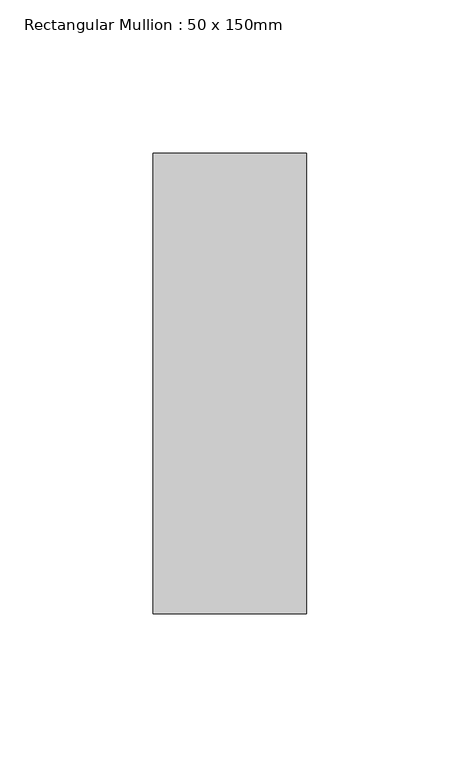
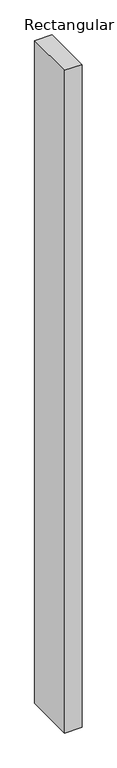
"""IFC4 building model written with IfcOpenShell, lengths in millimetres: member geometry, Rectangular Mullion : 50 x 150mm."""

from ifc_helpers import new_model, si_unit, frame, origin, place, context, project, spatial, polyline, outline, extrude, source, transform, mapped, element, save


def rectangular_mullion_50_x_150mm_cf9a89bc(model_context):
    return source(origin(), model_context, "Body", "SweptSolid", [
        extrude(outline(polyline([(0.0, 75.0), (0.0, -75.0), (-50.0, -75.0), (-50.0, 75.0), (0.0, 75.0)])), frame((0.0, 0.0, -2023.8005965), z_axis=(0.0, 0.0, 1.0), x_axis=(1.0, 0.0, 0.0)), (0.0, 0.0, 1.0), 2023.8005965),
    ])


if __name__ == "__main__":
    model = new_model("IFC4")
    model_context = context("Model", 3, world=origin())
    ifc_project = project(units=[si_unit("LENGTHUNIT", "METRE", prefix="MILLI")], contexts=[model_context])
    site = spatial("IfcSite", under=ifc_project)
    building = spatial("IfcBuilding", under=site)
    placement = place(None, origin())
    rectangular_mullion_50_x_150mm_shape = rectangular_mullion_50_x_150mm_cf9a89bc(model_context)
    element("IfcMember", 1, ObjectType="Rectangular Mullion : 50 x 150mm", at=placement, inside=building, context=model_context, shape_type="MappedRepresentation", body=[
        mapped(rectangular_mullion_50_x_150mm_shape, transform((0.0, 0.0, 0.0), x_axis=(1.0, 0.0, 0.0), y_axis=(0.0, 1.0, 0.0), z_axis=(0.0, 0.0, 1.0))),
    ])
    save(model, "model.ifc")
